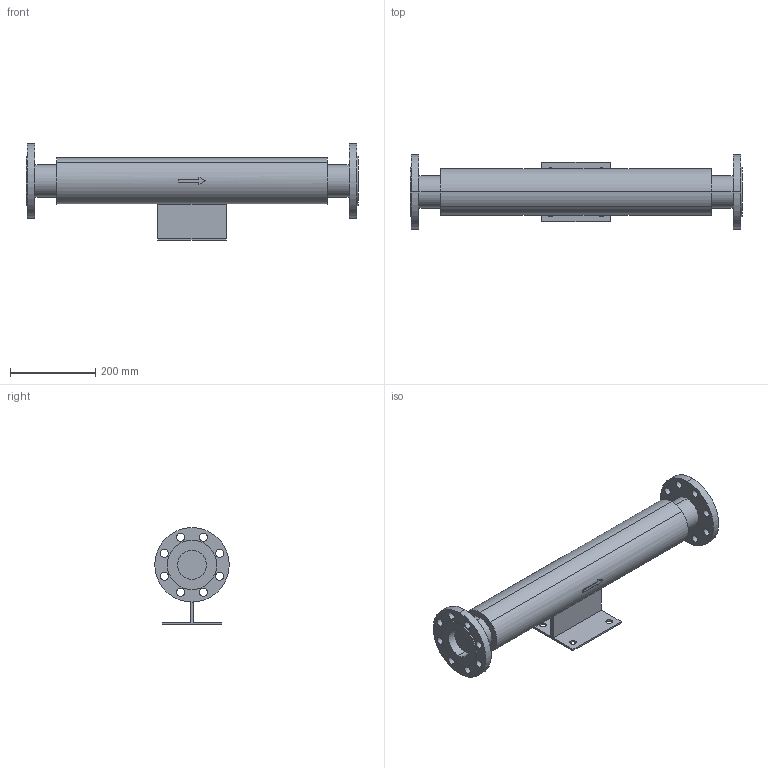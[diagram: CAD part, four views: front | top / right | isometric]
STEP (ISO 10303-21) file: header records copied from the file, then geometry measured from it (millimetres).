
FILE_DESCRIPTION( (''), '2;1');
FILE_NAME ('PC1027.9516.EB-12_65A_28497.stp','2025-07-30T09:12:41',(''),(''),'spGate 20.6.3 (****-****-****-****)','','');
FILE_SCHEMA (('AUTOMOTIVE_DESIGN'));
Length unit declared in the file: millimetre
Bounding box: 780 x 175 x 227.5 mm (x, y, z)
Volume: 7365239.6 mm3; surface area: 451299.2 mm2
Topology: 1 solids, 1 shells, 93 faces, 242 edges, 162 vertices
Faces by surface type: cylinder 58, plane 35
Entity records: 4849 total; most frequent: CARTESIAN_POINT 563, DIRECTION 492, ORIENTED_EDGE 484, COLOUR_RGB 336, PRESENTATION_STYLE_ASSIGNMENT 336, STYLED_ITEM 336, EDGE_CURVE 242, DRAUGHTING_PRE_DEFINED_CURVE_FONT 242
